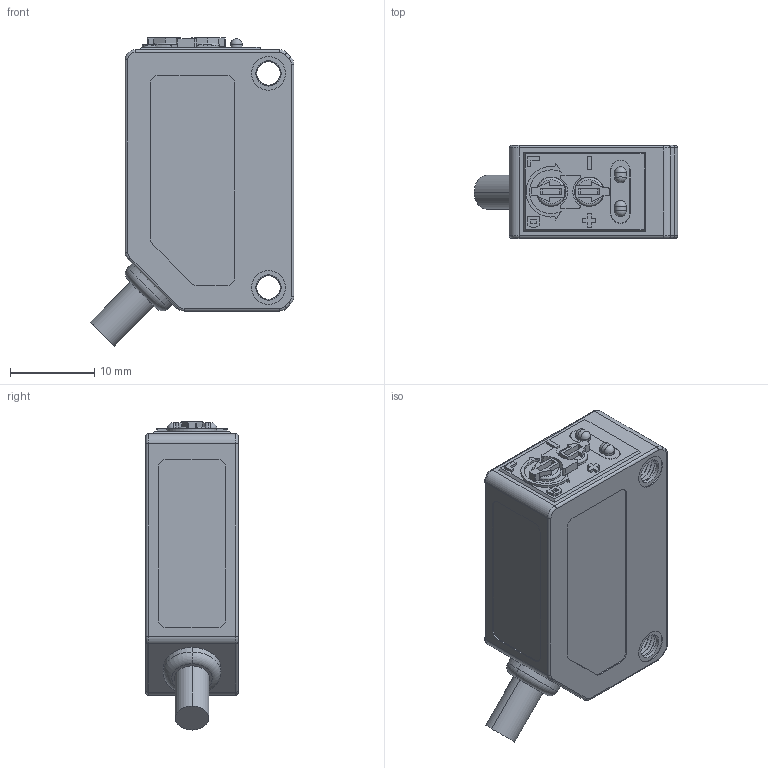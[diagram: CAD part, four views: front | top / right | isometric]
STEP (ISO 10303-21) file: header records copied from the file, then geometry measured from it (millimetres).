
FILE_DESCRIPTION((''),'2;1');
FILE_NAME('0000-ESB-3D_ASM','2019-12-11T',('Gavin'),(''),'PRO/ENGINEER BY PARAMETRIC TECHNOLOGY CORPORATION, 2009440','PRO/ENGINEER BY PARAMETRIC TECHNOLOGY CORPORATION, 2009440','');
FILE_SCHEMA(('CONFIG_CONTROL_DESIGN'));
Length unit declared in the file: millimetre
Products named in the file (43): PTV; CABLE; JINPIAN; COVER; PCB; SMALL_PCB; DIANWEIQI; LED; LUOWEN; MIDDLE_COVER; EMITTER_LENS; RECEIVER_LENS; GH_CS8PM1_24_20180516_GEOMETRY; PCB2; PSD_RECEIVER; MIDDLE_; PCB_JIADA; WAIKE; PSD; MIDDLE_COVER_31; EMITTER_LENS_1; GH_CS8PM1_24_20180516_GEOMETRY_; ASM0001000000_ASM_1_ASM; ASM0001000000_ASM_ASM; LR_G6SP_01_20080207_GEOMETRY; RECEIVER_LENS_1; SHILD; COS; BDK_ASM; LENS; _ST-32-A_C; _ST-32_DIAL_D; ASM0001_ASM; ST-32EA20K__24__ASM; LEDX2; LIGHT_PIPE; XUANNIU; JIAOQUAN; PCB__2; LVGUANGPIAN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
Assembly tree (46 placements, depth 5):
  0000-ESB-3D_ASM
    PTV
    CABLE
    JINPIAN
    COVER
    PCB
    SMALL_PCB
    DIANWEIQI
    LED  x2
    LUOWEN
    MIDDLE_COVER
    EMITTER_LENS
    RECEIVER_LENS
    GH_CS8PM1_24_20180516_GEOMETRY
    PCB2
    PSD_RECEIVER
    BDK_ASM
      MIDDLE_
      PCB_JIADA
      WAIKE
      PSD
      ASM0001000000_ASM_ASM
        ASM0001000000_ASM_1_ASM
          MIDDLE_COVER_31
          EMITTER_LENS_1
          GH_CS8PM1_24_20180516_GEOMETRY_
      LR_G6SP_01_20080207_GEOMETRY
      RECEIVER_LENS_1  x2
      SHILD
      COS
    LENS
    ST-32EA20K__24__ASM  x2
      ASM0001_ASM
        _ST-32-A_C
        _ST-32_DIAL_D
    LEDX2
    LIGHT_PIPE
    XUANNIU  x2
    JIAOQUAN
    PCB__2
    LVGUANGPIAN
    ESB-V4
    SHILD_COVER
Bounding box: 24.14 x 11 x 36.54 mm (x, y, z)
Volume: 4280.5 mm3; surface area: 8850.5 mm2
Topology: 23 solids, 25 shells, 1425 faces, 3807 edges, 2458 vertices
Faces by surface type: plane 881, cylinder 426, cone 46, torus 34, bspline 34, sphere 4
Entity records: 42576 total; most frequent: CARTESIAN_POINT 13163, ORIENTED_EDGE 6060, DIRECTION 5860, EDGE_CURVE 3030, VECTOR 2136, LINE 2136, VERTEX_POINT 1955, AXIS2_PLACEMENT_3D 1862
